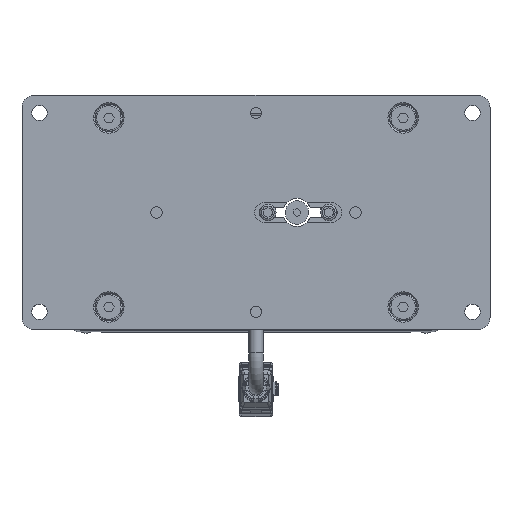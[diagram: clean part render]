
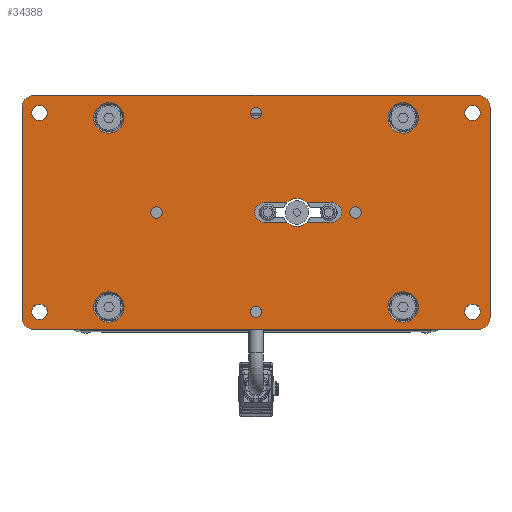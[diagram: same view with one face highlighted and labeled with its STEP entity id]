
A CAD part, top view. The second image highlights one B-rep face of the part: STEP entity #34388.
In plain terms, the highlighted planar face has unit normal (0, 0, 1).
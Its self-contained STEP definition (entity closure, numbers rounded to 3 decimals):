
#1246=LINE('',#46894,#3704);
#1247=LINE('',#46898,#3705);
#1248=LINE('',#46902,#3706);
#1249=LINE('',#46906,#3707);
#1250=LINE('',#46907,#3708);
#1251=LINE('',#46912,#3709);
#1252=LINE('',#46916,#3710);
#1253=LINE('',#46917,#3711);
#3704=VECTOR('',#39171,1000.);
#3705=VECTOR('',#39174,1000.);
#3706=VECTOR('',#39177,1000.);
#3707=VECTOR('',#39180,1000.);
#3708=VECTOR('',#39181,1000.);
#3709=VECTOR('',#39184,1000.);
#3710=VECTOR('',#39187,1000.);
#3711=VECTOR('',#39188,1000.);
#6578=ORIENTED_EDGE('',*,*,#14022,.F.);
#6579=ORIENTED_EDGE('',*,*,#14023,.F.);
#6580=ORIENTED_EDGE('',*,*,#14024,.F.);
#6581=ORIENTED_EDGE('',*,*,#14025,.F.);
#6582=ORIENTED_EDGE('',*,*,#14026,.T.);
#6583=ORIENTED_EDGE('',*,*,#14027,.T.);
#6584=ORIENTED_EDGE('',*,*,#14028,.T.);
#6585=ORIENTED_EDGE('',*,*,#14029,.T.);
#6586=ORIENTED_EDGE('',*,*,#14030,.F.);
#6587=ORIENTED_EDGE('',*,*,#14031,.F.);
#6588=ORIENTED_EDGE('',*,*,#14032,.F.);
#6589=ORIENTED_EDGE('',*,*,#14033,.F.);
#6590=ORIENTED_EDGE('',*,*,#14034,.T.);
#6591=ORIENTED_EDGE('',*,*,#14035,.T.);
#6592=ORIENTED_EDGE('',*,*,#14036,.T.);
#6593=ORIENTED_EDGE('',*,*,#14037,.T.);
#6594=ORIENTED_EDGE('',*,*,#14038,.T.);
#6595=ORIENTED_EDGE('',*,*,#14039,.T.);
#6596=ORIENTED_EDGE('',*,*,#14040,.T.);
#6597=ORIENTED_EDGE('',*,*,#14041,.T.);
#6598=ORIENTED_EDGE('',*,*,#14042,.F.);
#6599=ORIENTED_EDGE('',*,*,#14043,.T.);
#6600=ORIENTED_EDGE('',*,*,#14044,.F.);
#6601=ORIENTED_EDGE('',*,*,#14045,.T.);
#6602=ORIENTED_EDGE('',*,*,#14046,.T.);
#6603=ORIENTED_EDGE('',*,*,#14015,.T.);
#6604=ORIENTED_EDGE('',*,*,#14047,.T.);
#6605=ORIENTED_EDGE('',*,*,#14048,.T.);
#14015=EDGE_CURVE('',#17798,#17796,#20278,.T.);
#14022=EDGE_CURVE('',#17804,#17804,#20282,.T.);
#14023=EDGE_CURVE('',#17805,#17805,#20283,.T.);
#14024=EDGE_CURVE('',#17806,#17806,#20284,.T.);
#14025=EDGE_CURVE('',#17807,#17807,#20285,.T.);
#14026=EDGE_CURVE('',#17808,#17808,#20286,.T.);
#14027=EDGE_CURVE('',#17809,#17809,#20287,.T.);
#14028=EDGE_CURVE('',#17810,#17810,#20288,.T.);
#14029=EDGE_CURVE('',#17811,#17811,#20289,.T.);
#14030=EDGE_CURVE('',#17812,#17812,#20290,.T.);
#14031=EDGE_CURVE('',#17813,#17813,#20291,.T.);
#14032=EDGE_CURVE('',#17814,#17814,#20292,.T.);
#14033=EDGE_CURVE('',#17815,#17815,#20293,.T.);
#14034=EDGE_CURVE('',#17816,#17817,#20294,.T.);
#14035=EDGE_CURVE('',#17817,#17818,#1246,.T.);
#14036=EDGE_CURVE('',#17818,#17819,#20295,.T.);
#14037=EDGE_CURVE('',#17819,#17820,#1247,.T.);
#14038=EDGE_CURVE('',#17820,#17821,#20296,.T.);
#14039=EDGE_CURVE('',#17821,#17822,#1248,.T.);
#14040=EDGE_CURVE('',#17822,#17823,#20297,.T.);
#14041=EDGE_CURVE('',#17823,#17816,#1249,.T.);
#14042=EDGE_CURVE('',#17824,#17825,#1250,.T.);
#14043=EDGE_CURVE('',#17824,#17826,#20298,.T.);
#14044=EDGE_CURVE('',#17827,#17826,#1251,.T.);
#14045=EDGE_CURVE('',#17827,#17828,#20299,.T.);
#14046=EDGE_CURVE('',#17828,#17798,#1252,.T.);
#14047=EDGE_CURVE('',#17796,#17829,#1253,.T.);
#14048=EDGE_CURVE('',#17829,#17825,#20300,.T.);
#17796=VERTEX_POINT('',#46851);
#17798=VERTEX_POINT('',#46854);
#17804=VERTEX_POINT('',#46868);
#17805=VERTEX_POINT('',#46870);
#17806=VERTEX_POINT('',#46872);
#17807=VERTEX_POINT('',#46874);
#17808=VERTEX_POINT('',#46876);
#17809=VERTEX_POINT('',#46878);
#17810=VERTEX_POINT('',#46880);
#17811=VERTEX_POINT('',#46882);
#17812=VERTEX_POINT('',#46884);
#17813=VERTEX_POINT('',#46886);
#17814=VERTEX_POINT('',#46888);
#17815=VERTEX_POINT('',#46890);
#17816=VERTEX_POINT('',#46892);
#17817=VERTEX_POINT('',#46893);
#17818=VERTEX_POINT('',#46895);
#17819=VERTEX_POINT('',#46897);
#17820=VERTEX_POINT('',#46899);
#17821=VERTEX_POINT('',#46901);
#17822=VERTEX_POINT('',#46903);
#17823=VERTEX_POINT('',#46905);
#17824=VERTEX_POINT('',#46908);
#17825=VERTEX_POINT('',#46909);
#17826=VERTEX_POINT('',#46911);
#17827=VERTEX_POINT('',#46913);
#17828=VERTEX_POINT('',#46915);
#17829=VERTEX_POINT('',#46918);
#20278=CIRCLE('',#36062,6.);
#20282=CIRCLE('',#36067,2.459);
#20283=CIRCLE('',#36068,2.459);
#20284=CIRCLE('',#36069,2.459);
#20285=CIRCLE('',#36070,2.459);
#20286=CIRCLE('',#36071,6.5);
#20287=CIRCLE('',#36072,6.5);
#20288=CIRCLE('',#36073,6.5);
#20289=CIRCLE('',#36074,6.5);
#20290=CIRCLE('',#36075,3.3);
#20291=CIRCLE('',#36076,3.3);
#20292=CIRCLE('',#36077,3.3);
#20293=CIRCLE('',#36078,3.3);
#20294=CIRCLE('',#36079,5.);
#20295=CIRCLE('',#36080,5.);
#20296=CIRCLE('',#36081,5.);
#20297=CIRCLE('',#36082,5.);
#20298=CIRCLE('',#36083,6.);
#20299=CIRCLE('',#36084,4.15);
#20300=CIRCLE('',#36085,4.15);
#21473=EDGE_LOOP('',(#6578));
#21474=EDGE_LOOP('',(#6579));
#21475=EDGE_LOOP('',(#6580));
#21476=EDGE_LOOP('',(#6581));
#21477=EDGE_LOOP('',(#6582));
#21478=EDGE_LOOP('',(#6583));
#21479=EDGE_LOOP('',(#6584));
#21480=EDGE_LOOP('',(#6585));
#21481=EDGE_LOOP('',(#6586));
#21482=EDGE_LOOP('',(#6587));
#21483=EDGE_LOOP('',(#6588));
#21484=EDGE_LOOP('',(#6589));
#21485=EDGE_LOOP('',(#6590,#6591,#6592,#6593,#6594,#6595,#6596,#6597));
#21486=EDGE_LOOP('',(#6598,#6599,#6600,#6601,#6602,#6603,#6604,#6605));
#23257=FACE_BOUND('',#21473,.T.);
#23258=FACE_BOUND('',#21474,.T.);
#23259=FACE_BOUND('',#21475,.T.);
#23260=FACE_BOUND('',#21476,.T.);
#23261=FACE_BOUND('',#21477,.T.);
#23262=FACE_BOUND('',#21478,.T.);
#23263=FACE_BOUND('',#21479,.T.);
#23264=FACE_BOUND('',#21480,.T.);
#23265=FACE_BOUND('',#21481,.T.);
#23266=FACE_BOUND('',#21482,.T.);
#23267=FACE_BOUND('',#21483,.T.);
#23268=FACE_BOUND('',#21484,.T.);
#23269=FACE_BOUND('',#21485,.T.);
#23270=FACE_BOUND('',#21486,.T.);
#24945=PLANE('',#36066);
#34388=ADVANCED_FACE('',(#23257,#23258,#23259,#23260,#23261,#23262,#23263,
#23264,#23265,#23266,#23267,#23268,#23269,#23270),#24945,.T.);
#36062=AXIS2_PLACEMENT_3D('',#46853,#39132,#39133);
#36066=AXIS2_PLACEMENT_3D('',#46866,#39143,#39144);
#36067=AXIS2_PLACEMENT_3D('',#46867,#39145,#39146);
#36068=AXIS2_PLACEMENT_3D('',#46869,#39147,#39148);
#36069=AXIS2_PLACEMENT_3D('',#46871,#39149,#39150);
#36070=AXIS2_PLACEMENT_3D('',#46873,#39151,#39152);
#36071=AXIS2_PLACEMENT_3D('',#46875,#39153,#39154);
#36072=AXIS2_PLACEMENT_3D('',#46877,#39155,#39156);
#36073=AXIS2_PLACEMENT_3D('',#46879,#39157,#39158);
#36074=AXIS2_PLACEMENT_3D('',#46881,#39159,#39160);
#36075=AXIS2_PLACEMENT_3D('',#46883,#39161,#39162);
#36076=AXIS2_PLACEMENT_3D('',#46885,#39163,#39164);
#36077=AXIS2_PLACEMENT_3D('',#46887,#39165,#39166);
#36078=AXIS2_PLACEMENT_3D('',#46889,#39167,#39168);
#36079=AXIS2_PLACEMENT_3D('',#46891,#39169,#39170);
#36080=AXIS2_PLACEMENT_3D('',#46896,#39172,#39173);
#36081=AXIS2_PLACEMENT_3D('',#46900,#39175,#39176);
#36082=AXIS2_PLACEMENT_3D('',#46904,#39178,#39179);
#36083=AXIS2_PLACEMENT_3D('',#46910,#39182,#39183);
#36084=AXIS2_PLACEMENT_3D('',#46914,#39185,#39186);
#36085=AXIS2_PLACEMENT_3D('',#46919,#39189,#39190);
#39132=DIRECTION('',(0.,0.,-1.));
#39133=DIRECTION('',(1.,0.,0.));
#39143=DIRECTION('',(0.,0.,1.));
#39144=DIRECTION('',(1.,0.,0.));
#39145=DIRECTION('',(0.,0.,1.));
#39146=DIRECTION('',(1.,0.,0.));
#39147=DIRECTION('',(0.,0.,1.));
#39148=DIRECTION('',(1.,0.,0.));
#39149=DIRECTION('',(0.,0.,1.));
#39150=DIRECTION('',(1.,0.,0.));
#39151=DIRECTION('',(0.,0.,1.));
#39152=DIRECTION('',(1.,0.,0.));
#39153=DIRECTION('',(0.,0.,-1.));
#39154=DIRECTION('',(1.,0.,0.));
#39155=DIRECTION('',(0.,0.,-1.));
#39156=DIRECTION('',(1.,0.,0.));
#39157=DIRECTION('',(0.,0.,-1.));
#39158=DIRECTION('',(1.,0.,0.));
#39159=DIRECTION('',(0.,0.,-1.));
#39160=DIRECTION('',(1.,0.,0.));
#39161=DIRECTION('',(0.,0.,1.));
#39162=DIRECTION('',(1.,0.,0.));
#39163=DIRECTION('',(0.,0.,1.));
#39164=DIRECTION('',(1.,0.,0.));
#39165=DIRECTION('',(0.,0.,1.));
#39166=DIRECTION('',(1.,0.,0.));
#39167=DIRECTION('',(0.,0.,1.));
#39168=DIRECTION('',(1.,0.,0.));
#39169=DIRECTION('',(0.,0.,1.));
#39170=DIRECTION('',(1.,0.,0.));
#39171=DIRECTION('',(1.,0.,0.));
#39172=DIRECTION('',(0.,0.,1.));
#39173=DIRECTION('',(-1.,0.,0.));
#39174=DIRECTION('',(0.,1.,0.));
#39175=DIRECTION('',(0.,0.,1.));
#39176=DIRECTION('',(1.,0.,0.));
#39177=DIRECTION('',(-1.,0.,0.));
#39178=DIRECTION('',(0.,0.,1.));
#39179=DIRECTION('',(1.,0.,0.));
#39180=DIRECTION('',(0.,-1.,0.));
#39181=DIRECTION('',(1.,0.,0.));
#39182=DIRECTION('',(0.,0.,-1.));
#39183=DIRECTION('',(1.,0.,0.));
#39184=DIRECTION('',(1.,0.,0.));
#39185=DIRECTION('',(0.,0.,-1.));
#39186=DIRECTION('',(0.,-1.,0.));
#39187=DIRECTION('',(1.,0.,0.));
#39188=DIRECTION('',(1.,0.,0.));
#39189=DIRECTION('',(0.,0.,-1.));
#39190=DIRECTION('',(0.,1.,0.));
#46851=CARTESIAN_POINT('',(21.833,4.15,8.));
#46853=CARTESIAN_POINT('',(17.5,0.,8.));
#46854=CARTESIAN_POINT('',(13.167,4.15,8.));
#46866=CARTESIAN_POINT('',(-95.,-45.,8.));
#46867=CARTESIAN_POINT('',(0.,-42.5,8.));
#46868=CARTESIAN_POINT('',(2.459,-42.5,8.));
#46869=CARTESIAN_POINT('',(42.5,0.,8.));
#46870=CARTESIAN_POINT('',(44.959,0.,8.));
#46871=CARTESIAN_POINT('',(0.,42.5,8.));
#46872=CARTESIAN_POINT('',(2.459,42.5,8.));
#46873=CARTESIAN_POINT('',(-42.5,0.,8.));
#46874=CARTESIAN_POINT('',(-40.042,0.,8.));
#46875=CARTESIAN_POINT('',(-62.9,-40.4,8.));
#46876=CARTESIAN_POINT('',(-56.4,-40.4,8.));
#46877=CARTESIAN_POINT('',(62.9,-40.4,8.));
#46878=CARTESIAN_POINT('',(69.4,-40.4,8.));
#46879=CARTESIAN_POINT('',(62.9,40.4,8.));
#46880=CARTESIAN_POINT('',(69.4,40.4,8.));
#46881=CARTESIAN_POINT('',(-62.9,40.4,8.));
#46882=CARTESIAN_POINT('',(-56.4,40.4,8.));
#46883=CARTESIAN_POINT('',(-92.5,-42.5,8.));
#46884=CARTESIAN_POINT('',(-89.2,-42.5,8.));
#46885=CARTESIAN_POINT('',(92.5,-42.5,8.));
#46886=CARTESIAN_POINT('',(95.8,-42.5,8.));
#46887=CARTESIAN_POINT('',(92.5,42.5,8.));
#46888=CARTESIAN_POINT('',(95.8,42.5,8.));
#46889=CARTESIAN_POINT('',(-92.5,42.5,8.));
#46890=CARTESIAN_POINT('',(-89.2,42.5,8.));
#46891=CARTESIAN_POINT('',(-95.,-45.,8.));
#46892=CARTESIAN_POINT('',(-100.,-45.,8.));
#46893=CARTESIAN_POINT('',(-95.,-50.,8.));
#46894=CARTESIAN_POINT('',(-95.,-50.,8.));
#46895=CARTESIAN_POINT('',(95.,-50.,8.));
#46896=CARTESIAN_POINT('',(95.,-45.,8.));
#46897=CARTESIAN_POINT('',(100.,-45.,8.));
#46898=CARTESIAN_POINT('',(100.,-45.,8.));
#46899=CARTESIAN_POINT('',(100.,45.,8.));
#46900=CARTESIAN_POINT('',(95.,45.,8.));
#46901=CARTESIAN_POINT('',(95.,50.,8.));
#46902=CARTESIAN_POINT('',(95.,50.,8.));
#46903=CARTESIAN_POINT('',(-95.,50.,8.));
#46904=CARTESIAN_POINT('',(-95.,45.,8.));
#46905=CARTESIAN_POINT('',(-100.,45.,8.));
#46906=CARTESIAN_POINT('',(-100.,45.,8.));
#46907=CARTESIAN_POINT('',(3.5,-4.15,8.));
#46908=CARTESIAN_POINT('',(21.833,-4.15,8.));
#46909=CARTESIAN_POINT('',(32.5,-4.15,8.));
#46910=CARTESIAN_POINT('',(17.5,0.,8.));
#46911=CARTESIAN_POINT('',(13.167,-4.15,8.));
#46912=CARTESIAN_POINT('',(3.5,-4.15,8.));
#46913=CARTESIAN_POINT('',(3.5,-4.15,8.));
#46914=CARTESIAN_POINT('',(3.5,0.,8.));
#46915=CARTESIAN_POINT('',(3.5,4.15,8.));
#46916=CARTESIAN_POINT('',(3.5,4.15,8.));
#46917=CARTESIAN_POINT('',(3.5,4.15,8.));
#46918=CARTESIAN_POINT('',(32.5,4.15,8.));
#46919=CARTESIAN_POINT('',(32.5,0.,8.));
